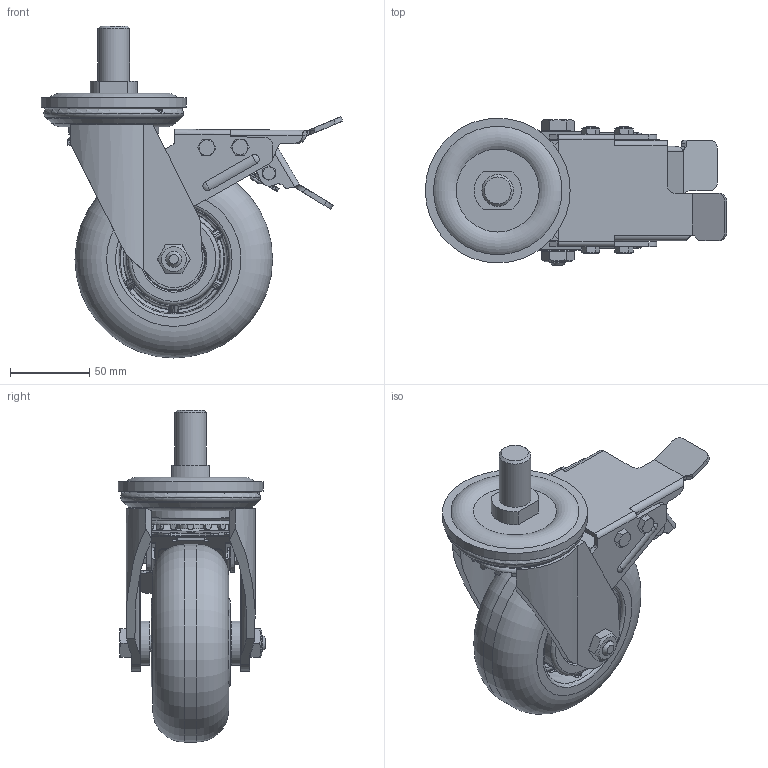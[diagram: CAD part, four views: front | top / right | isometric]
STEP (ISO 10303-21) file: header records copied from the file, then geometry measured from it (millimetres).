
FILE_DESCRIPTION(/* description */ (''),/* implementation_level */ '2;1');
FILE_NAME(/* name */ '35A94_5_F.stp',/* time_stamp */ '2022-10-07T09:46:24+08:00',/* author */ (''),/* organization */ (''),/* preprocessor_version */ 'ST-DEVELOPER v14',/* originating_system */ 'SIEMENS PLM Software NX 8.0',/* authorisation */ '');
FILE_SCHEMA (('AUTOMOTIVE_DESIGN { 1 0 10303 214 3 1 1 1 }'));
Products named in the file (1): 35A94_5_F
Bounding box: 190.63 x 93.3 x 210 mm (x, y, z)
Surface area: 189262.1 mm2
Topology: 2 solids, 3 shells, 1472 faces, 3929 edges, 2494 vertices
Faces by surface type: plane 652, cylinder 424, bspline 205, cone 75, torus 63, sphere 29, extrusion 24
Full cylindrical faces by diameter (mm): 4 x2, 4.2 x2, 5 x2, 5.2 x2, 5.997 x19, 6 x2, 6.2 x9, 7.78 x1, 9.78 x2, 10.104 x2, 12 x1, 12.2 x2, 16 x2, 16.2 x2, 16.3 x1, 17 x2, 20 x1, 20.5 x2, 22.276 x1, 24.188 x4, 26.256 x1, 28 x2, 32.812 x2, 39.85 x2, 40 x3, 57 x1, 91.6 x1, 125 x1
Entity records: 64508 total; most frequent: CARTESIAN_POINT 31088, ORIENTED_EDGE 7178, DIRECTION 6527, EDGE_CURVE 3589, AXIS2_PLACEMENT_3D 2646, VERTEX_POINT 2337, EDGE_LOOP 1780, ADVANCED_FACE 1454
